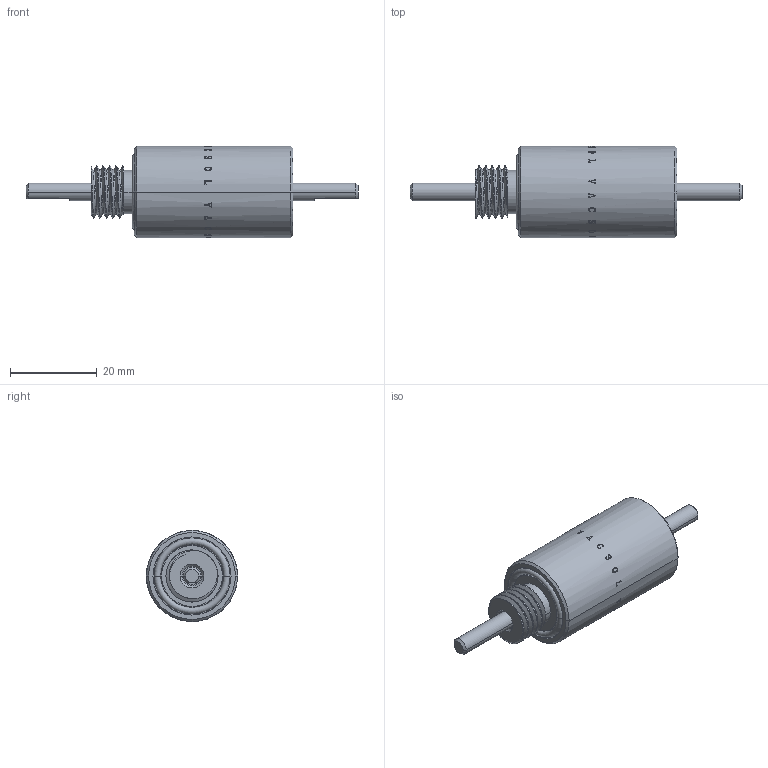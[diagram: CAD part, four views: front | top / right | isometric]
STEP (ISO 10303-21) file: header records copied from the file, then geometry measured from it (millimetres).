
FILE_DESCRIPTION (( 'STEP AP214' ), '1' );
FILE_NAME ('M4.STEP', '2010-08-26T13:06:36', ( 'user' ), ( '' ), 'SwSTEP 2.0', 'SolidWorks 2007', '' );
FILE_SCHEMA (( 'AUTOMOTIVE_DESIGN' ));
Length unit declared in the file: millimetre
Products named in the file (1): M4
Bounding box: 76.5 x 21 x 21 mm (x, y, z)
Volume: 13868.8 mm3; surface area: 4463.1 mm2
Topology: 2 solids, 2 shells, 386 faces, 1038 edges, 686 vertices
Faces by surface type: bspline 258, plane 59, cylinder 51, cone 14, torus 4
Entity records: 31128 total; most frequent: CARTESIAN_POINT 20220, ORIENTED_EDGE 2076, EDGE_CURVE 1038, B_SPLINE_CURVE_WITH_KNOTS 811, VERTEX_POINT 686, DIRECTION 575, EDGE_LOOP 418, FACE_OUTER_BOUND 386
